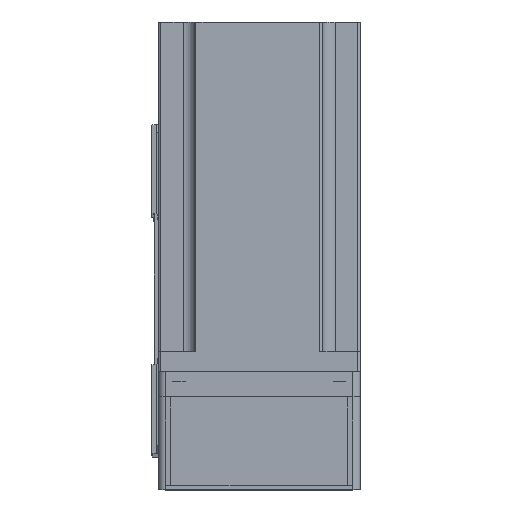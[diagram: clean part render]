
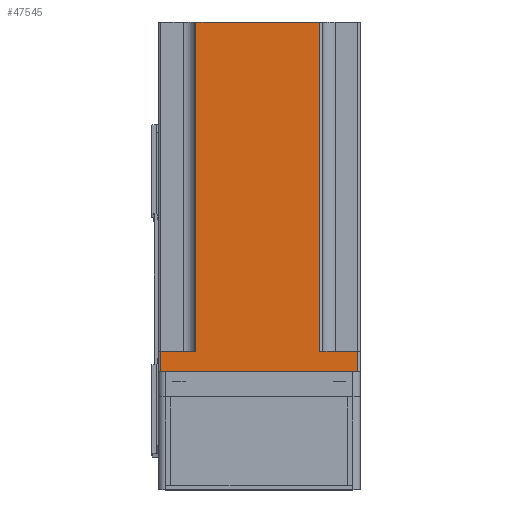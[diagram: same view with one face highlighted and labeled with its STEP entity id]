
A CAD part, top view. The second image highlights one B-rep face of the part: STEP entity #47545.
In plain terms, the highlighted planar face has unit normal (0, 0, 1) as drawn and (-1, 0, 0) by its records, which use the part's own axes.
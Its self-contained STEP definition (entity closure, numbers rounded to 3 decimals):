
#709 = ORIENTED_EDGE ( 'NONE', *, *, #8879, .F. ) ;
#1720 = EDGE_CURVE ( 'NONE', #2525, #47294, #40635, .T. ) ;
#2525 = VERTEX_POINT ( 'NONE', #27981 ) ;
#4147 = VERTEX_POINT ( 'NONE', #32988 ) ;
#6035 = DIRECTION ( 'NONE',  ( 1., 0., 0. ) ) ;
#6101 = LINE ( 'NONE', #29661, #34981 ) ;
#6702 = CARTESIAN_POINT ( 'NONE',  ( -40., 25., 8. ) ) ;
#8879 = EDGE_CURVE ( 'NONE', #32302, #26399, #25099, .T. ) ;
#9224 = AXIS2_PLACEMENT_3D ( 'NONE', #28621, #6035, #32400 ) ;
#9376 = EDGE_CURVE ( 'NONE', #44594, #2525, #37911, .T. ) ;
#9473 = EDGE_CURVE ( 'NONE', #28051, #32302, #20868, .T. ) ;
#9487 = FACE_OUTER_BOUND ( 'NONE', #40279, .T. ) ;
#11754 = VECTOR ( 'NONE', #17479, 1000. ) ;
#13281 = ORIENTED_EDGE ( 'NONE', *, *, #9473, .F. ) ;
#13469 = PLANE ( 'NONE',  #9224 ) ;
#13480 = ORIENTED_EDGE ( 'NONE', *, *, #25695, .F. ) ;
#14566 = ORIENTED_EDGE ( 'NONE', *, *, #27418, .T. ) ;
#17259 = LINE ( 'NONE', #38555, #36106 ) ;
#17479 = DIRECTION ( 'NONE',  ( 0., 0., 1. ) ) ;
#18285 = DIRECTION ( 'NONE',  ( 0., 0., 1. ) ) ;
#18589 = EDGE_CURVE ( 'NONE', #47294, #41578, #17259, .T. ) ;
#20669 = VECTOR ( 'NONE', #33483, 1000. ) ;
#20868 = LINE ( 'NONE', #44520, #33256 ) ;
#21430 = CARTESIAN_POINT ( 'NONE',  ( -40., 39., 138.3 ) ) ;
#21652 = CARTESIAN_POINT ( 'NONE',  ( -40., -40., 138.3 ) ) ;
#23027 = CARTESIAN_POINT ( 'NONE',  ( -40., -24., 138.3 ) ) ;
#25099 = LINE ( 'NONE', #21652, #43819 ) ;
#25236 = DIRECTION ( 'NONE',  ( 0., 0., -1. ) ) ;
#25439 = DIRECTION ( 'NONE',  ( 0., -1., 0. ) ) ;
#25695 = EDGE_CURVE ( 'NONE', #4147, #41578, #6101, .T. ) ;
#25834 = ORIENTED_EDGE ( 'NONE', *, *, #18589, .T. ) ;
#26399 = VERTEX_POINT ( 'NONE', #23027 ) ;
#27418 = EDGE_CURVE ( 'NONE', #4147, #26399, #31783, .T. ) ;
#27645 = ORIENTED_EDGE ( 'NONE', *, *, #39498, .T. ) ;
#27981 = CARTESIAN_POINT ( 'NONE',  ( -40., 39., 0. ) ) ;
#28051 = VERTEX_POINT ( 'NONE', #6702 ) ;
#28223 = ORIENTED_EDGE ( 'NONE', *, *, #1720, .T. ) ;
#28621 = CARTESIAN_POINT ( 'NONE',  ( -40., -40., 138.3 ) ) ;
#29661 = CARTESIAN_POINT ( 'NONE',  ( -40., -40., 8. ) ) ;
#31305 = CARTESIAN_POINT ( 'NONE',  ( -40., -39., 8. ) ) ;
#31783 = LINE ( 'NONE', #39951, #11754 ) ;
#32302 = VERTEX_POINT ( 'NONE', #32687 ) ;
#32360 = CARTESIAN_POINT ( 'NONE',  ( -40., 40., 8. ) ) ;
#32400 = DIRECTION ( 'NONE',  ( 0., 0., -1. ) ) ;
#32687 = CARTESIAN_POINT ( 'NONE',  ( -40., 25., 138.3 ) ) ;
#32988 = CARTESIAN_POINT ( 'NONE',  ( -40., -24., 8. ) ) ;
#33256 = VECTOR ( 'NONE', #18285, 1000. ) ;
#33319 = ORIENTED_EDGE ( 'NONE', *, *, #9376, .T. ) ;
#33483 = DIRECTION ( 'NONE',  ( 0., -1., 0. ) ) ;
#34829 = DIRECTION ( 'NONE',  ( 0., 0., 1. ) ) ;
#34981 = VECTOR ( 'NONE', #37192, 1000. ) ;
#36096 = LINE ( 'NONE', #32360, #44825 ) ;
#36106 = VECTOR ( 'NONE', #34829, 1000. ) ;
#37192 = DIRECTION ( 'NONE',  ( 0., -1., 0. ) ) ;
#37911 = LINE ( 'NONE', #21430, #46681 ) ;
#38283 = CARTESIAN_POINT ( 'NONE',  ( -40., -39., 0. ) ) ;
#38555 = CARTESIAN_POINT ( 'NONE',  ( -40., -39., 138.3 ) ) ;
#39498 = EDGE_CURVE ( 'NONE', #28051, #44594, #36096, .T. ) ;
#39951 = CARTESIAN_POINT ( 'NONE',  ( -40., -24., 138.3 ) ) ;
#40279 = EDGE_LOOP ( 'NONE', ( #13480, #14566, #709, #13281, #27645, #33319, #28223, #25834 ) ) ;
#40635 = LINE ( 'NONE', #48275, #20669 ) ;
#41103 = CARTESIAN_POINT ( 'NONE',  ( -40., 39., 8. ) ) ;
#41578 = VERTEX_POINT ( 'NONE', #31305 ) ;
#43457 = DIRECTION ( 'NONE',  ( 0., 1., 0. ) ) ;
#43819 = VECTOR ( 'NONE', #25439, 1000. ) ;
#44520 = CARTESIAN_POINT ( 'NONE',  ( -40., 25., 8. ) ) ;
#44594 = VERTEX_POINT ( 'NONE', #41103 ) ;
#44825 = VECTOR ( 'NONE', #43457, 1000. ) ;
#46681 = VECTOR ( 'NONE', #25236, 1000. ) ;
#47294 = VERTEX_POINT ( 'NONE', #38283 ) ;
#47545 = ADVANCED_FACE ( 'NONE', ( #9487 ), #13469, .F. ) ;
#48275 = CARTESIAN_POINT ( 'NONE',  ( -40., -40., 0. ) ) ;
